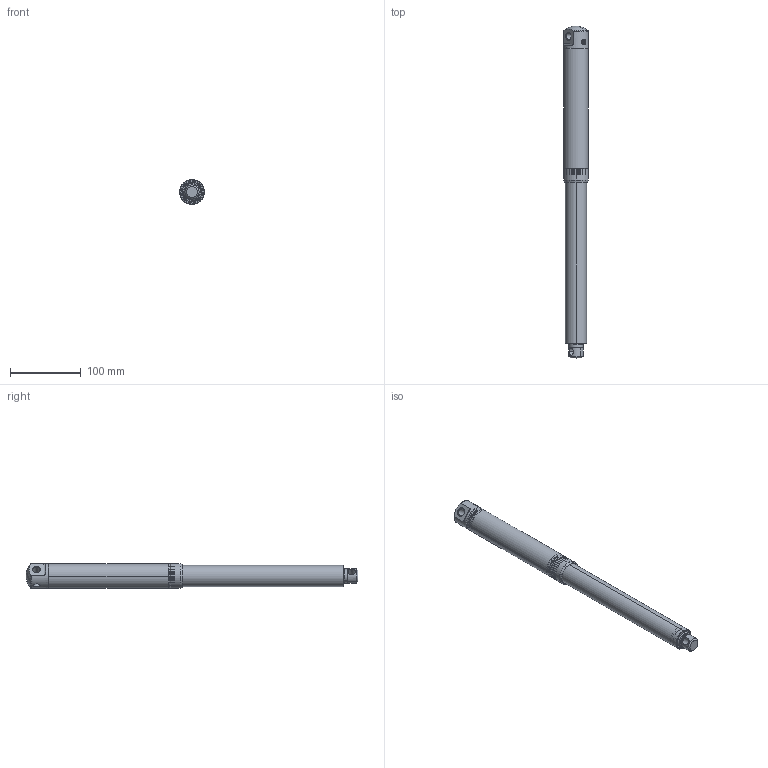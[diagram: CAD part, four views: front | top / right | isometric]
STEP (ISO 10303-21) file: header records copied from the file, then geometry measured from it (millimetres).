
FILE_DESCRIPTION (( 'STEP AP203' ), '1' );
FILE_NAME ('3D_JP5.STEP', '2023-10-18T02:29:10', ( '' ), ( '' ), 'SwSTEP 2.0', 'SolidWorks 2015', '' );
FILE_SCHEMA (( 'CONFIG_CONTROL_DESIGN' ));
Products named in the file (2): 3D_JP5
Bounding box: 35 x 469.6 x 35 mm (x, y, z)
Volume: 117936 mm3; surface area: 130239.6 mm2
Topology: 10 solids, 10 shells, 456 faces, 1215 edges, 767 vertices
Faces by surface type: cylinder 205, cone 90, plane 66, bspline 55, torus 38, sphere 2
Entity records: 86569 total; most frequent: CARTESIAN_POINT 76109, ORIENTED_EDGE 2418, DIRECTION 1937, EDGE_CURVE 1209, AXIS2_PLACEMENT_3D 796, VERTEX_POINT 765, EDGE_LOOP 506, FACE_OUTER_BOUND 456
